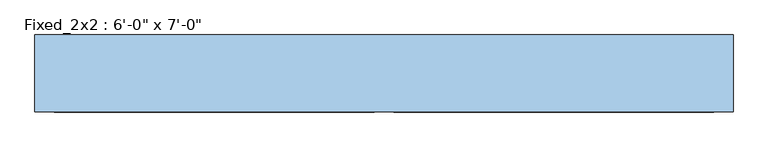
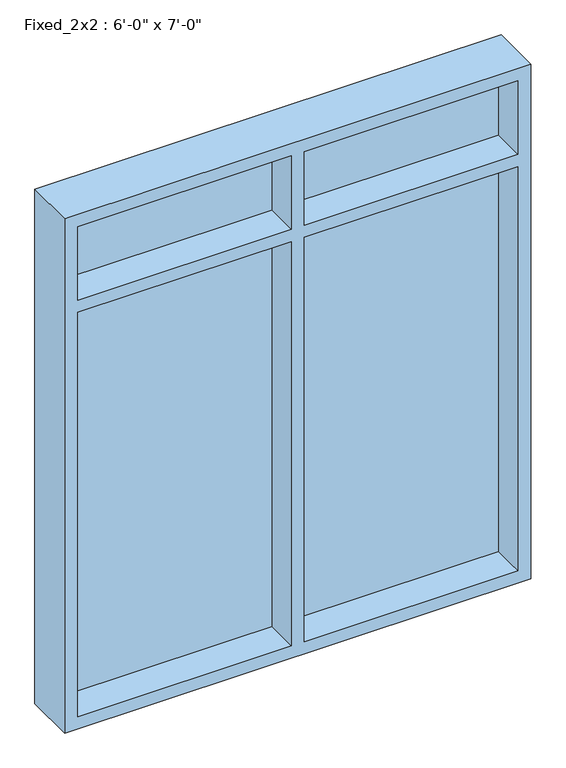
"""IFC4 building model written with IfcOpenShell, lengths in millimetres: window geometry."""

from ifc_helpers import new_model, si_unit, frame, origin, place, context, project, spatial, polyline, outline, extrude, source, transform, mapped, element, save


def window_b39aa827(model_context):
    return source(origin(), model_context, "Body", "SweptSolid", [
        extrude(outline(polyline([(-431.8, 82.9137746), (406.4, 82.9137746), (406.4, 57.5137746), (-431.8, 57.5137746), (-431.8, 82.9137746)])), frame((0.0, 0.0, 956.6367551), z_axis=(0.0, 0.0, 1.0), x_axis=(1.0, 0.0, 0.0)), (0.0, 0.0, 1.0), 1676.4),
        extrude(outline(polyline([(-1320.8, 82.9137746), (-482.6, 82.9137746), (-482.6, 57.5137746), (-1320.8, 57.5137746), (-1320.8, 82.9137746)])), frame((0.0, 0.0, 956.6367551), z_axis=(0.0, 0.0, 1.0), x_axis=(1.0, 0.0, 0.0)), (0.0, 0.0, 1.0), 1676.4),
        extrude(outline(polyline([(-431.8, 82.9137746), (406.4, 82.9137746), (406.4, 57.5137746), (-431.8, 57.5137746), (-431.8, 82.9137746)])), frame((0.0, 0.0, 2683.8367551), z_axis=(0.0, 0.0, 1.0), x_axis=(1.0, 0.0, 0.0)), (0.0, 0.0, 1.0), 304.8),
        extrude(outline(polyline([(-1320.8, 82.9137746), (-482.6, 82.9137746), (-482.6, 57.5137746), (-1320.8, 57.5137746), (-1320.8, 82.9137746)])), frame((0.0, 0.0, 2683.8367551), z_axis=(0.0, 0.0, 1.0), x_axis=(1.0, 0.0, 0.0)), (0.0, 0.0, 1.0), 304.8),
        extrude(outline(polyline([(3039.4367551, -1371.6), (905.8367551, -1371.6), (905.8367551, 457.2), (3039.4367551, 457.2), (3039.4367551, -1371.6)]), holes=[polyline([(2988.6367551, -431.8), (2988.6367551, 406.4), (2683.8367551, 406.4), (2683.8367551, -431.8), (2988.6367551, -431.8)]), polyline([(2988.6367551, -1320.8), (2988.6367551, -482.6), (2683.8367551, -482.6), (2683.8367551, -1320.8), (2988.6367551, -1320.8)]), polyline([(2633.0367551, -431.8), (2633.0367551, 406.4), (956.6367551, 406.4), (956.6367551, -431.8), (2633.0367551, -431.8)]), polyline([(2633.0367551, -1320.8), (2633.0367551, -482.6), (956.6367551, -482.6), (956.6367551, -1320.8), (2633.0367551, -1320.8)])]), frame((0.0, -74.2487254, 0.0), z_axis=(0.0, 1.0, 0.0), x_axis=(0.0, 0.0, 1.0)), (0.0, 0.0, 1.0), 201.6125),
    ])


if __name__ == "__main__":
    model = new_model("IFC4")
    model_context = context("Model", 3, world=origin())
    ifc_project = project(units=[si_unit("LENGTHUNIT", "METRE", prefix="MILLI")], contexts=[model_context])
    site = spatial("IfcSite", under=ifc_project)
    building = spatial("IfcBuilding", under=site)
    placement = place(None, origin())
    window_shape = window_b39aa827(model_context)
    element("IfcWindow", 1, ObjectType="Fixed_2x2 : 6'-0\" x 7'-0\"", at=placement, inside=building, context=model_context, shape_type="MappedRepresentation", body=[
        mapped(window_shape, transform((0.0, 0.0, 0.0), x_axis=(1.0, 0.0, 0.0), y_axis=(0.0, 1.0, 0.0), z_axis=(0.0, 0.0, 1.0))),
    ])
    save(model, "model.ifc")
